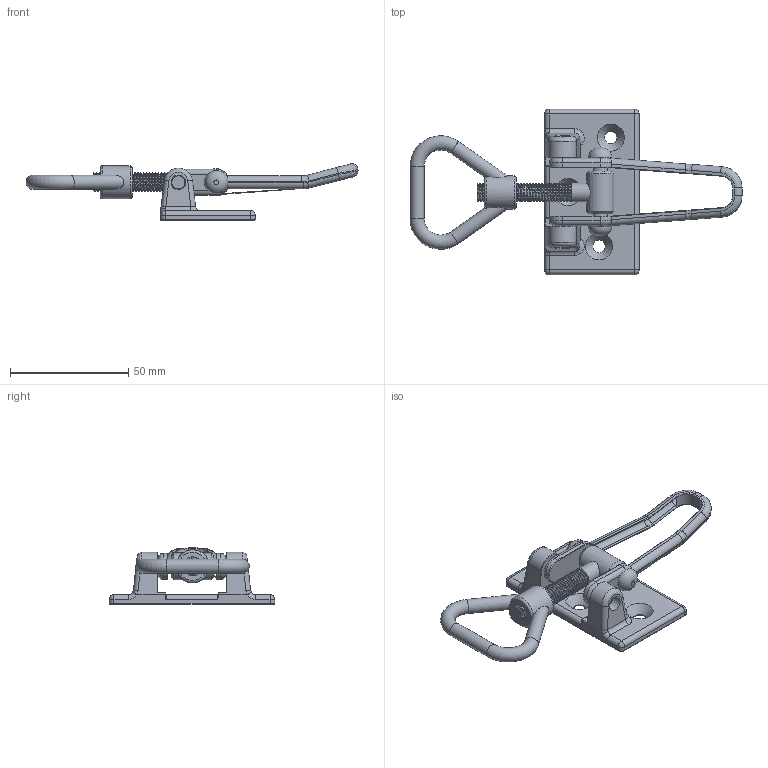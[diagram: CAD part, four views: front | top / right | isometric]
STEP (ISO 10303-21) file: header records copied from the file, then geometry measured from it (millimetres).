
FILE_DESCRIPTION(/* description */ ('Unknown'),/* implementation_level */ '2;1');
FILE_NAME(/* name */ '3927.01.04',/* time_stamp */ '2025-09-09T08:17:04+02:00',/* author */ ('Unknown'),/* organization */ ('Unknown'),/* preprocessor_version */ 'ST-DEVELOPER v16.7',/* originating_system */ 'DEX',/* authorisation */ $);
FILE_SCHEMA (('AUTOMOTIVE_DESIGN {1 0 10303 214 3 1 1}'));
Length unit declared in the file: millimetre
Products named in the file (6): 3927.01.04; Grundplatte; Griff; Gewindebolzen_0; Stift; Halter
Assembly tree (5 placements, depth 2):
  3927.01.04
    Grundplatte
    Griff
    Gewindebolzen_0
    Stift
    Halter
Bounding box: 140.45 x 70 x 23.83 mm (x, y, z)
Volume: 27610.9 mm3; surface area: 18224.1 mm2
Topology: 5 solids, 5 shells, 249 faces, 623 edges, 380 vertices
Faces by surface type: cylinder 132, plane 50, torus 30, bspline 26, sphere 6, cone 5
Full cylindrical faces by diameter (mm): 5.3 x3, 6 x6, 6.2 x2, 6.5 x3, 6.8 x1, 8 x32, 11.5 x1, 14 x1
Entity records: 13183 total; most frequent: CARTESIAN_POINT 8202, DIRECTION 1078, ORIENTED_EDGE 940, EDGE_CURVE 470, AXIS2_PLACEMENT_3D 453, VERTEX_POINT 297, EDGE_LOOP 271, FACE_BOUND 271
